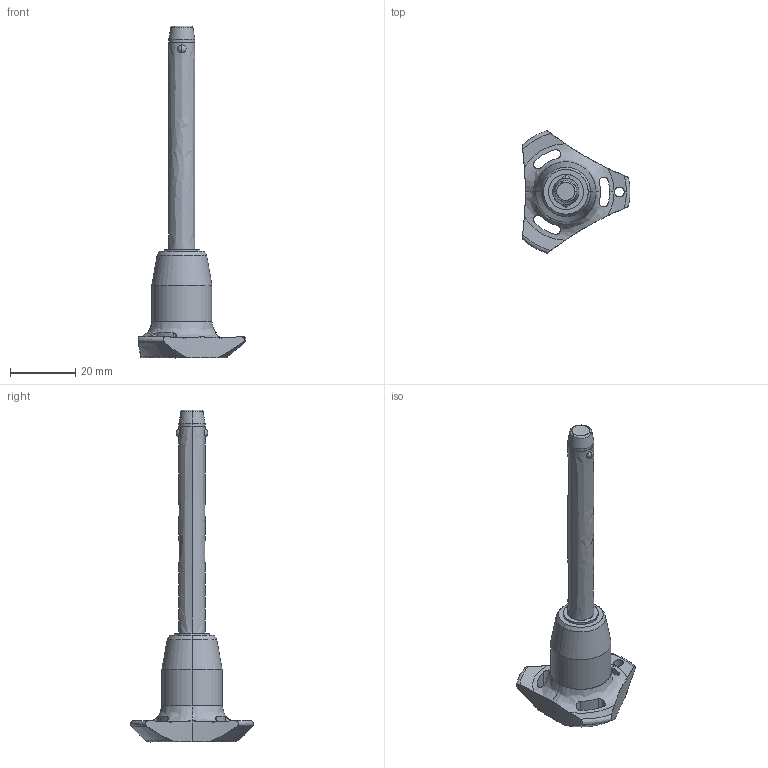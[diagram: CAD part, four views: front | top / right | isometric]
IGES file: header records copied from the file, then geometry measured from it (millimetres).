
Start section: SolidWorks IGES file using analytic representation for surfaces
Global section: file name: C:\Users\ianosborn\Desktop\QR1726_v2\QR1726_v2_20251115_IGES\QR1726.M08-060-T.igs; native system: SolidWorks 2019; preprocessor: SolidWorks 2019; author: IanOsborn; date: 251113.110749; units: millimetre
Bounding box: 33 x 37.51 x 101.5 mm (x, y, z)
Surface area: 5491.9 mm2 (no closed solid volume)
Topology: 0 solids, 0 shells, 68 faces, 1344 edges, 1337 vertices
Faces by surface type: revolution 52, bspline 16
